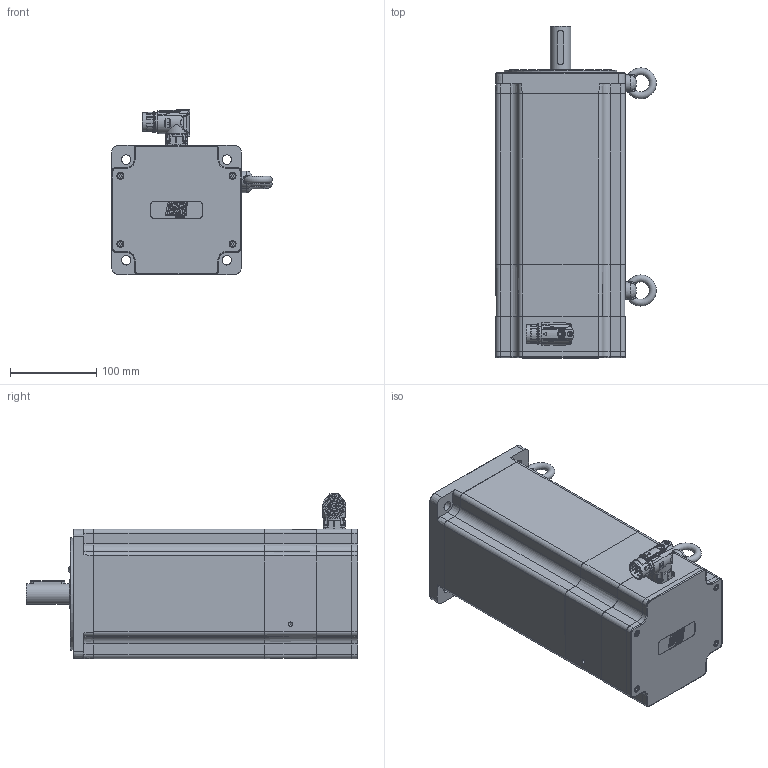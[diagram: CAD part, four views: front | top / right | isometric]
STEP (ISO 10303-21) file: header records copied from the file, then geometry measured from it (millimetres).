
FILE_DESCRIPTION(/* description */ ('Unknown'),/* implementation_level */ '2;1');
FILE_NAME(/* name */ 'TC4-150.6C.XX.X. 3.M1.1.X .C21 Q0C701',/* time_stamp */ '2026-03-06T16:42:09+01:00',/* author */ ('Unknown'),/* organization */ ('Unknown'),/* preprocessor_version */ 'ST-DEVELOPER v19.4',/* originating_system */ 'Solid Edge',/* authorisation */ 'Unknown');
FILE_SCHEMA (('AUTOMOTIVE_DESIGN {1 0 10303 214 3 1 1}'));
Products named in the file (14): Q0C701 6C FRENO M1 VUOTO; Distanziale calotta-tappo TC4-150; 005113000600; 005321000040; 005911000252; 003003200234; 003103040225; 005911000223; 007117000456; Coperchio campana TC4-150; 005119002043; 003151003192; 005911000185; 003251040619
Assembly tree (23 placements, depth 2):
  Q0C701 6C FRENO M1 VUOTO
    Distanziale calotta-tappo TC4-150
    005113000600
    005321000040  x2
    005911000252  x4
    003003200234
    003103040225
    005911000223  x4
    007117000456
    Coperchio campana TC4-150
    005119002043
    003151003192
    005911000185  x4
    003251040619
Bounding box: 185.99 x 384.5 x 191.51 mm (x, y, z)
Volume: 2263926.1 mm3; surface area: 601613.6 mm2
Topology: 23 solids, 24 shells, 1945 faces, 4836 edges, 3052 vertices
Faces by surface type: plane 840, cylinder 395, bspline 369, cone 181, torus 134, sphere 26
Full cylindrical faces by diameter (mm): 1 x4, 1.4 x4, 2 x4, 2.013 x4, 2.459 x2, 2.5 x4, 2.8 x4, 3 x8, 3.2 x1, 3.242 x12, 4 x4, 4.134 x8, 4.2 x1, 4.5 x9, 4.7 x4, 4.917 x12, 5 x6, 5.5 x9, 5.8 x1, 5.9 x1, 6 x3, 6.647 x2, 6.8 x1, 7 x4, 8 x4, 8.4 x1, 8.5 x4, 9 x4, 10 x5, 11 x4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
Entity records: 72476 total; most frequent: CARTESIAN_POINT 21413, ORIENTED_EDGE 8186, DIRECTION 7170, EDGE_CURVE 4093, VERTEX_POINT 2771, AXIS2_PLACEMENT_3D 2705, FACE_BOUND 2324, EDGE_LOOP 2301
